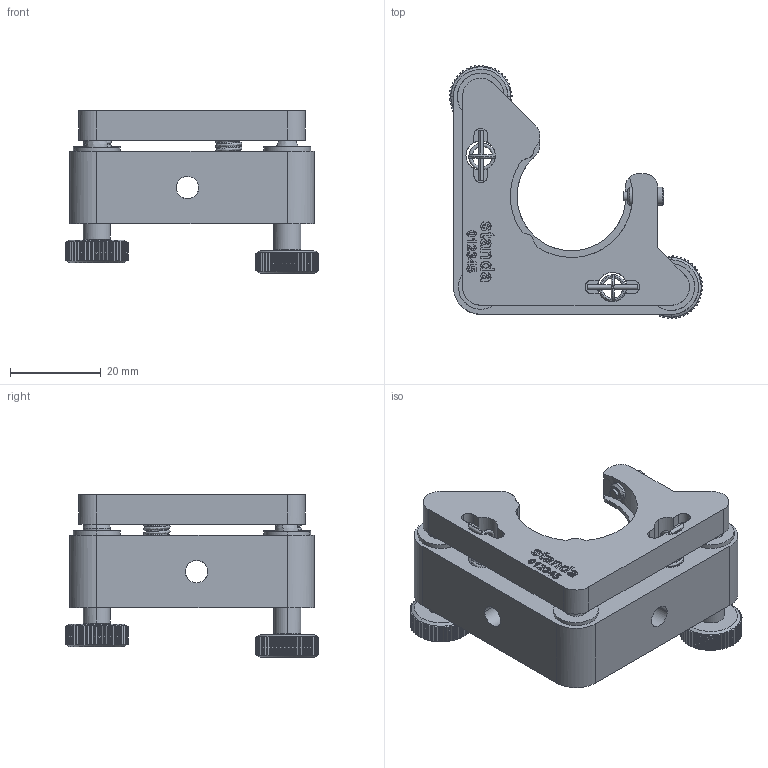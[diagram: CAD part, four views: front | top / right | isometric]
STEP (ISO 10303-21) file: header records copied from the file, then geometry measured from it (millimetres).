
FILE_DESCRIPTION (( 'STEP AP203' ), '1' );
FILE_NAME ('5MBM24-1-2.STEP', '2011-04-29T05:55:38', ( 'Darius' ), ( '' ), 'SwSTEP 2.0', 'SolidWorks 2003240', '' );
FILE_SCHEMA (( 'CONFIG_CONTROL_DESIGN' ));
Products named in the file (1): 5MBM24-1-2
Bounding box: 55.79 x 55.79 x 35.84 mm (x, y, z)
Volume: 24827.7 mm3; surface area: 13799.6 mm2
Topology: 1 solids, 1 shells, 1305 faces, 3931 edges, 2649 vertices
Faces by surface type: cylinder 532, plane 447, bspline 280, cone 46
Entity records: 63364 total; most frequent: CARTESIAN_POINT 32583, ORIENTED_EDGE 7848, DIRECTION 4157, EDGE_CURVE 3924, VERTEX_POINT 2650, B_SPLINE_CURVE_WITH_KNOTS 2100, VECTOR 1519, LINE 1519
